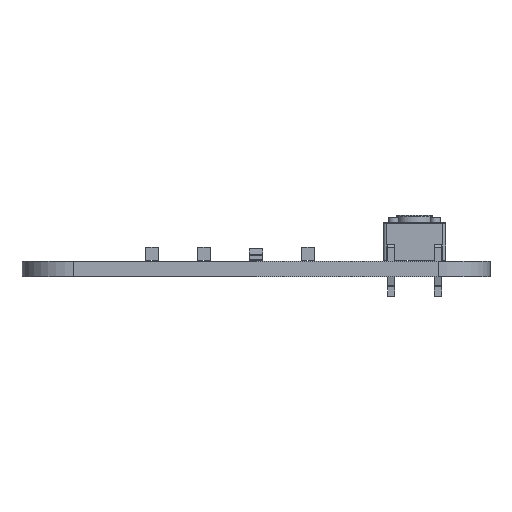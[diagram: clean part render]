
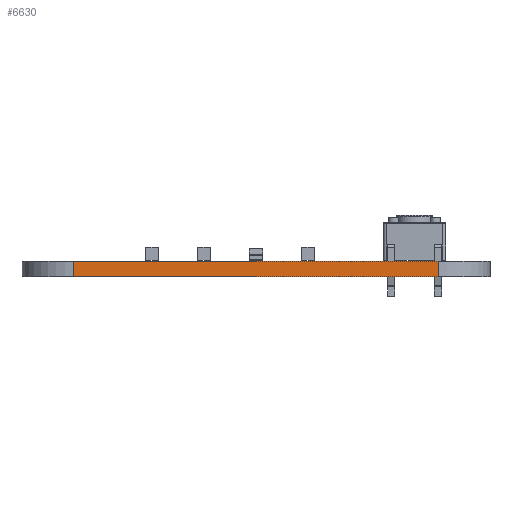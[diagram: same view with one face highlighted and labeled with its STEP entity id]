
A CAD part, left-side view. The second image highlights one B-rep face of the part: STEP entity #6630.
In plain terms, the highlighted planar face has unit normal (-1, 0, 0).
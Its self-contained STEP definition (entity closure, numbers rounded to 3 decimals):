
#5839 = VERTEX_POINT('',#5840);
#5840 = CARTESIAN_POINT('',(152.5,-82.5,0.));
#5847 = EDGE_CURVE('',#5848,#5839,#5850,.T.);
#5848 = VERTEX_POINT('',#5849);
#5849 = CARTESIAN_POINT('',(152.5,-117.5,0.));
#5850 = LINE('',#5851,#5852);
#5851 = CARTESIAN_POINT('',(152.5,-117.5,0.));
#5852 = VECTOR('',#5853,1.);
#5853 = DIRECTION('',(0.,1.,0.));
#6221 = VERTEX_POINT('',#6222);
#6222 = CARTESIAN_POINT('',(152.5,-82.5,1.51));
#6229 = EDGE_CURVE('',#6230,#6221,#6232,.T.);
#6230 = VERTEX_POINT('',#6231);
#6231 = CARTESIAN_POINT('',(152.5,-117.5,1.51));
#6232 = LINE('',#6233,#6234);
#6233 = CARTESIAN_POINT('',(152.5,-117.5,1.51));
#6234 = VECTOR('',#6235,1.);
#6235 = DIRECTION('',(0.,1.,0.));
#6600 = EDGE_CURVE('',#5839,#6221,#6601,.T.);
#6601 = LINE('',#6602,#6603);
#6602 = CARTESIAN_POINT('',(152.5,-82.5,0.));
#6603 = VECTOR('',#6604,1.);
#6604 = DIRECTION('',(0.,0.,1.));
#6630 = ADVANCED_FACE('',(#6631),#6642,.T.);
#6631 = FACE_BOUND('',#6632,.T.);
#6632 = EDGE_LOOP('',(#6633,#6639,#6640,#6641));
#6633 = ORIENTED_EDGE('',*,*,#6634,.T.);
#6634 = EDGE_CURVE('',#5848,#6230,#6635,.T.);
#6635 = LINE('',#6636,#6637);
#6636 = CARTESIAN_POINT('',(152.5,-117.5,0.));
#6637 = VECTOR('',#6638,1.);
#6638 = DIRECTION('',(0.,0.,1.));
#6639 = ORIENTED_EDGE('',*,*,#6229,.T.);
#6640 = ORIENTED_EDGE('',*,*,#6600,.F.);
#6641 = ORIENTED_EDGE('',*,*,#5847,.F.);
#6642 = PLANE('',#6643);
#6643 = AXIS2_PLACEMENT_3D('',#6644,#6645,#6646);
#6644 = CARTESIAN_POINT('',(152.5,-117.5,0.));
#6645 = DIRECTION('',(-1.,0.,0.));
#6646 = DIRECTION('',(0.,1.,0.));
